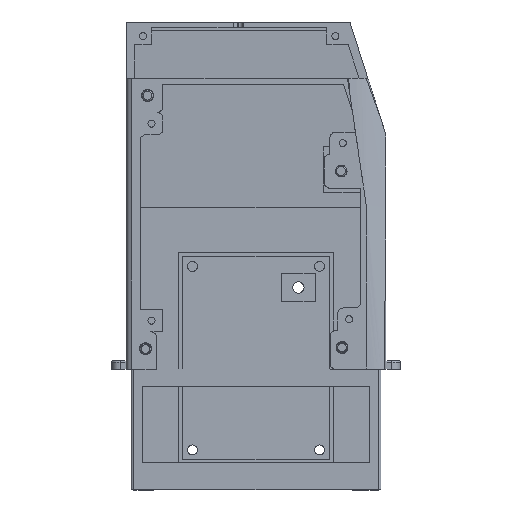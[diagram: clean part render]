
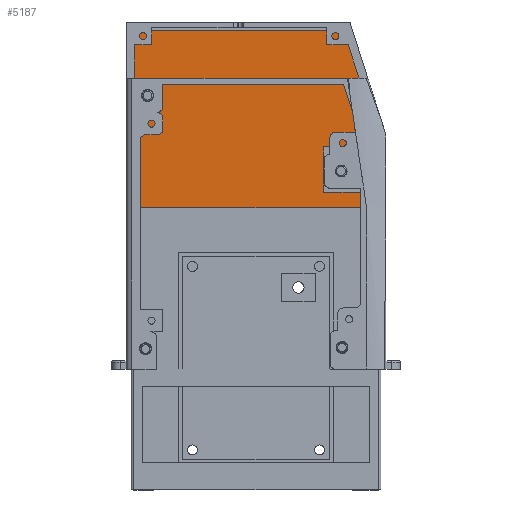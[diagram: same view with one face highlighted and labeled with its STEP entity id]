
A CAD part, top view. The second image highlights one B-rep face of the part: STEP entity #5187.
In plain terms, the highlighted planar face has unit normal (0, -0.035, 0.999).
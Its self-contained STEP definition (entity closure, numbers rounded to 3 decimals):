
#176=PLANE('',#5571);
#413=FACE_OUTER_BOUND('',#715,.T.);
#715=EDGE_LOOP('',(#3983,#3984,#3985,#3986,#3987,#3988,#3989,#3990,#3991,
#3992,#3993,#3994,#3995,#3996,#3997));
#928=ELLIPSE('',#5572,2.001,2.);
#1083=LINE('',#7970,#1639);
#1125=LINE('',#8061,#1681);
#1126=LINE('',#8063,#1682);
#1127=LINE('',#8066,#1683);
#1128=LINE('',#8068,#1684);
#1129=LINE('',#8070,#1685);
#1130=LINE('',#8072,#1686);
#1131=LINE('',#8074,#1687);
#1132=LINE('',#8076,#1688);
#1133=LINE('',#8078,#1689);
#1134=LINE('',#8080,#1690);
#1135=LINE('',#8082,#1691);
#1136=LINE('',#8084,#1692);
#1137=LINE('',#8085,#1693);
#1639=VECTOR('',#6363,10.);
#1681=VECTOR('',#6441,10.);
#1682=VECTOR('',#6442,10.);
#1683=VECTOR('',#6445,10.);
#1684=VECTOR('',#6446,10.);
#1685=VECTOR('',#6447,10.);
#1686=VECTOR('',#6448,10.);
#1687=VECTOR('',#6449,10.);
#1688=VECTOR('',#6450,10.);
#1689=VECTOR('',#6451,10.);
#1690=VECTOR('',#6452,10.);
#1691=VECTOR('',#6453,10.);
#1692=VECTOR('',#6454,10.);
#1693=VECTOR('',#6455,10.);
#2395=VERTEX_POINT('',#7967);
#2396=VERTEX_POINT('',#7969);
#2426=VERTEX_POINT('',#8059);
#2427=VERTEX_POINT('',#8060);
#2428=VERTEX_POINT('',#8062);
#2429=VERTEX_POINT('',#8065);
#2430=VERTEX_POINT('',#8067);
#2431=VERTEX_POINT('',#8069);
#2432=VERTEX_POINT('',#8071);
#2433=VERTEX_POINT('',#8073);
#2434=VERTEX_POINT('',#8075);
#2435=VERTEX_POINT('',#8077);
#2436=VERTEX_POINT('',#8079);
#2437=VERTEX_POINT('',#8081);
#2438=VERTEX_POINT('',#8083);
#2968=EDGE_CURVE('',#2396,#2395,#1083,.T.);
#3013=EDGE_CURVE('',#2426,#2427,#1125,.T.);
#3014=EDGE_CURVE('',#2427,#2428,#1126,.T.);
#3015=EDGE_CURVE('',#2396,#2428,#928,.F.);
#3016=EDGE_CURVE('',#2429,#2395,#1127,.T.);
#3017=EDGE_CURVE('',#2430,#2429,#1128,.T.);
#3018=EDGE_CURVE('',#2431,#2430,#1129,.T.);
#3019=EDGE_CURVE('',#2431,#2432,#1130,.T.);
#3020=EDGE_CURVE('',#2432,#2433,#1131,.T.);
#3021=EDGE_CURVE('',#2433,#2434,#1132,.T.);
#3022=EDGE_CURVE('',#2434,#2435,#1133,.T.);
#3023=EDGE_CURVE('',#2436,#2435,#1134,.T.);
#3024=EDGE_CURVE('',#2437,#2436,#1135,.T.);
#3025=EDGE_CURVE('',#2437,#2438,#1136,.T.);
#3026=EDGE_CURVE('',#2426,#2438,#1137,.T.);
#3983=ORIENTED_EDGE('',*,*,#3013,.T.);
#3984=ORIENTED_EDGE('',*,*,#3014,.T.);
#3985=ORIENTED_EDGE('',*,*,#3015,.F.);
#3986=ORIENTED_EDGE('',*,*,#2968,.T.);
#3987=ORIENTED_EDGE('',*,*,#3016,.F.);
#3988=ORIENTED_EDGE('',*,*,#3017,.F.);
#3989=ORIENTED_EDGE('',*,*,#3018,.F.);
#3990=ORIENTED_EDGE('',*,*,#3019,.T.);
#3991=ORIENTED_EDGE('',*,*,#3020,.T.);
#3992=ORIENTED_EDGE('',*,*,#3021,.T.);
#3993=ORIENTED_EDGE('',*,*,#3022,.T.);
#3994=ORIENTED_EDGE('',*,*,#3023,.F.);
#3995=ORIENTED_EDGE('',*,*,#3024,.F.);
#3996=ORIENTED_EDGE('',*,*,#3025,.T.);
#3997=ORIENTED_EDGE('',*,*,#3026,.F.);
#5187=ADVANCED_FACE('',(#413),#176,.T.);
#5571=AXIS2_PLACEMENT_3D('',#8058,#6439,#6440);
#5572=AXIS2_PLACEMENT_3D('',#8064,#6443,#6444);
#6363=DIRECTION('',(-1.,0.,0.));
#6439=DIRECTION('center_axis',(0.,-0.035,0.999));
#6440=DIRECTION('ref_axis',(0.,-0.999,-0.035));
#6441=DIRECTION('',(1.,0.,0.));
#6442=DIRECTION('',(0.,-0.999,-0.035));
#6443=DIRECTION('center_axis',(0.,0.035,-0.999));
#6444=DIRECTION('ref_axis',(0.,-0.999,-0.035));
#6445=DIRECTION('',(0.,0.999,0.035));
#6446=DIRECTION('',(-1.,0.,0.));
#6447=DIRECTION('',(0.,-0.999,-0.035));
#6448=DIRECTION('',(-1.,0.,0.));
#6449=DIRECTION('',(0.,0.999,0.035));
#6450=DIRECTION('',(0.,0.999,0.035));
#6451=DIRECTION('',(1.,0.,0.));
#6452=DIRECTION('',(0.,-0.999,-0.035));
#6453=DIRECTION('',(0.303,-0.953,-0.033));
#6454=DIRECTION('',(-1.,0.,0.));
#6455=DIRECTION('',(0.,0.999,0.035));
#7967=CARTESIAN_POINT('',(3.,124.,6.18));
#7969=CARTESIAN_POINT('',(11.,124.,6.18));
#7970=CARTESIAN_POINT('',(1.5,124.,6.18));
#8058=CARTESIAN_POINT('Origin',(0.,198.,8.764));
#8059=CARTESIAN_POINT('',(3.,136.,6.599));
#8060=CARTESIAN_POINT('',(13.,136.,6.599));
#8061=CARTESIAN_POINT('',(6.5,136.,6.599));
#8062=CARTESIAN_POINT('',(13.,126.,6.249));
#8063=CARTESIAN_POINT('',(13.,160.979,7.471));
#8064=CARTESIAN_POINT('Origin',(11.,126.,6.249));
#8065=CARTESIAN_POINT('',(3.,90.22,5.));
#8066=CARTESIAN_POINT('',(3.,115.448,5.881));
#8067=CARTESIAN_POINT('',(89.,90.22,5.));
#8068=CARTESIAN_POINT('',(23.,90.22,5.));
#8069=CARTESIAN_POINT('',(89.,95.752,5.193));
#8070=CARTESIAN_POINT('',(89.,156.665,7.32));
#8071=CARTESIAN_POINT('',(70.,95.752,5.193));
#8072=CARTESIAN_POINT('',(35.,95.752,5.193));
#8073=CARTESIAN_POINT('',(70.,109.177,5.662));
#8074=CARTESIAN_POINT('',(70.,154.987,7.262));
#8075=CARTESIAN_POINT('',(70.,112.,5.761));
#8076=CARTESIAN_POINT('',(70.,154.987,7.262));
#8077=CARTESIAN_POINT('',(89.,112.,5.761));
#8078=CARTESIAN_POINT('',(44.5,112.,5.761));
#8079=CARTESIAN_POINT('',(89.,115.535,5.884));
#8080=CARTESIAN_POINT('',(89.,156.665,7.32));
#8081=CARTESIAN_POINT('',(77.099,153.,7.192));
#8082=CARTESIAN_POINT('',(59.974,206.912,9.075));
#8083=CARTESIAN_POINT('',(3.,153.,7.192));
#8084=CARTESIAN_POINT('',(1.5,153.,7.192));
#8085=CARTESIAN_POINT('',(3.,115.448,5.881));
